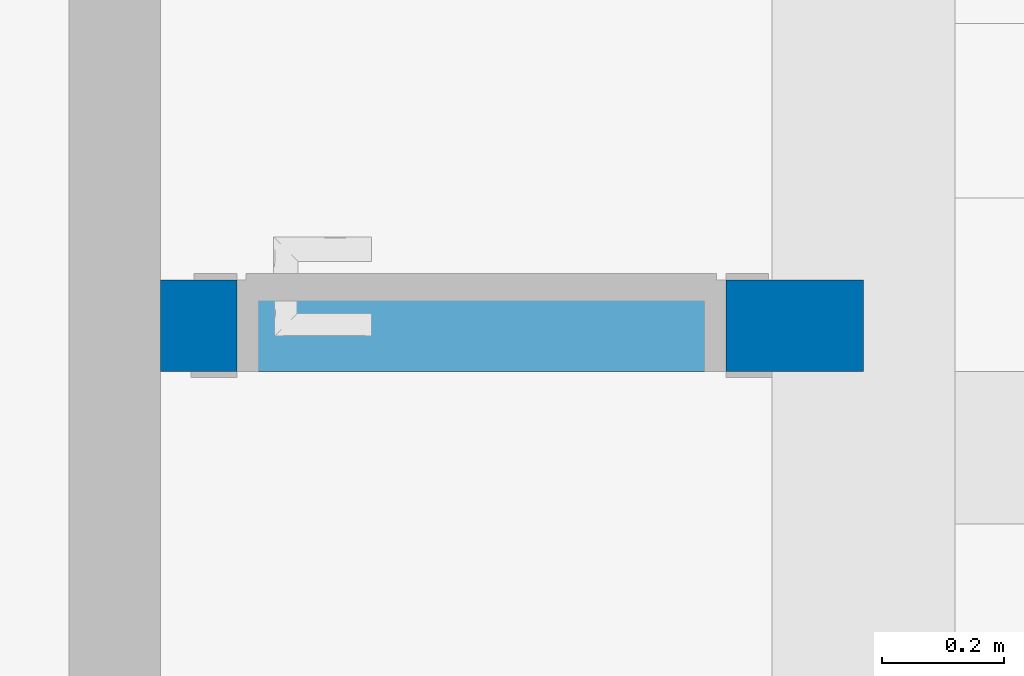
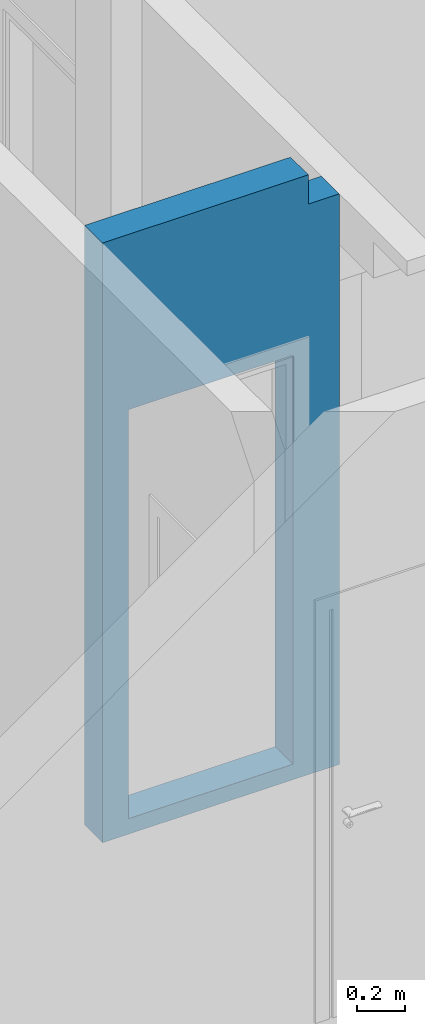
# One storey, part 4 of 11: 1 wall, 1 opening.
"""IFC2X3 building model written with IfcOpenShell, lengths in metres."""

from ifc_helpers import new_model, entity, si_unit, converted_unit, derived_unit, direction, frame, frame_2d, origin, place, context, subcontext, project, spatial, polyline, rectangle, extrude, clip, bounded_halfspace, material, layer, layer_set, layer_usage, type_object, element, save


model = new_model("IFC2X3")

# Units and contexts
model_context = context("Model", 3, precision=1e-05, world=origin(), true_north=direction((6.12303176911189e-17, 1.0)))
context_of_model = context(None, 3, precision=1e-05, world=origin(), true_north=direction((6.12303176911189e-17, 1.0)))
body_context = subcontext(model_context, "Body", "Model", "MODEL_VIEW")
ifc_project = project(units=[si_unit("LENGTHUNIT", "METRE"), si_unit("AREAUNIT", "SQUARE_METRE"), si_unit("VOLUMEUNIT", "CUBIC_METRE"), converted_unit("PLANEANGLEUNIT", "DEGREE", entity("IfcRatioMeasure", 0.0174532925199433), si_unit("PLANEANGLEUNIT", "RADIAN"), dimensions=[0, 0, 0, 0, 0, 0, 0]), si_unit("MASSUNIT", "GRAM", prefix="KILO"), si_unit("TIMEUNIT", "SECOND"), si_unit("FREQUENCYUNIT", "HERTZ"), si_unit("THERMODYNAMICTEMPERATUREUNIT", "DEGREE_CELSIUS"), derived_unit("THERMALTRANSMITTANCEUNIT", [(si_unit("MASSUNIT", "GRAM", prefix="KILO"), 1), (si_unit("THERMODYNAMICTEMPERATUREUNIT", "KELVIN"), -1), (si_unit("TIMEUNIT", "SECOND"), -3)]), derived_unit("VOLUMETRICFLOWRATEUNIT", [(si_unit("LENGTHUNIT", "METRE"), 3), (si_unit("TIMEUNIT", "SECOND"), -1)]), si_unit("ELECTRICCURRENTUNIT", "AMPERE"), si_unit("ELECTRICVOLTAGEUNIT", "VOLT"), si_unit("POWERUNIT", "WATT"), si_unit("FORCEUNIT", "NEWTON", prefix="KILO"), si_unit("ILLUMINANCEUNIT", "LUX"), si_unit("LUMINOUSFLUXUNIT", "LUMEN"), si_unit("LUMINOUSINTENSITYUNIT", "CANDELA"), si_unit("PRESSUREUNIT", "PASCAL")], contexts=[model_context, context_of_model])

# Site, building, storey
site_placement = place(None, origin())
site = spatial("IfcSite", under=ifc_project, at=site_placement, Name="Default", CompositionType="ELEMENT")
building_placement = place(site_placement, origin())
building = spatial("IfcBuilding", under=site, at=building_placement, CompositionType="ELEMENT")
storey_placement = place(building_placement, frame((0.0, 0.0, 3.45)))
storey = spatial("IfcBuildingStorey", under=building, at=storey_placement, Name="02.ES.PLANTA PRIMERA", CompositionType="ELEMENT", Elevation=3.45)

# Wall, opening
ifc_material = material(Name="Muro por defecto")
ifc_layer = layer(ifc_material, 0.15)
ifc_layer_set = layer_set([ifc_layer], Name="Muro básico:Por defecto - 15 cm")
ifc_layer_usage = layer_usage(ifc_layer_set, "AXIS2", "NEGATIVE", 0.075)
wall_type = type_object("IfcWallType", Name="Muro básico:Por defecto - 15 cm", PredefinedType="STANDARD", material=ifc_layer_set)
wall_placement = place(storey_placement, frame((7.91500000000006, 6.86500000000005, 0.0)))
wall = element("IfcWallStandardCase", 1, at=wall_placement, inside=storey, type_object=wall_type, material=ifc_layer_usage, Name="Muro básico:Por defecto - 15 cm", ObjectType="Muro básico:Por defecto - 15 cm", context=body_context, shape_type="Clipping", body=[
    clip(clip(extrude(rectangle(XDim=1.14999999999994, YDim=0.150000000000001, at=frame_2d((0.574999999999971, -2.42861286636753e-16), x_axis=(-1.0, 0.0))), origin(), (0.0, 0.0, 1.0), 3.08), bounded_halfspace(frame((1.0, 0.0750000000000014, 2.93), z_axis=(0.0, 0.0, -1.0), x_axis=(0.0, -1.0, 0.0)), True, frame((1.0, 0.0750000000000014, 2.93), z_axis=(0.0, 0.0, -1.0), x_axis=(0.0, -1.0, 0.0)), polyline([(0.0, 0.0), (0.0, -0.150000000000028), (0.150000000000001, -0.150000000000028), (0.149999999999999, 0.0), (0.0, 0.0)]))), bounded_halfspace(frame((1.0, -0.0749999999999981, 2.93), z_axis=(-1.0, 0.0, 0.0), x_axis=(0.0, -1.0, 0.0)), True, frame((1.0, -0.0749999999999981, 2.93), z_axis=(-1.0, 0.0, 0.0), x_axis=(0.0, -1.0, 0.0)), polyline([(0.0, 0.0), (0.0, 0.150000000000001), (-0.149999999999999, 0.150000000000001), (-0.149999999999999, 0.0), (0.0, 0.0)]))),
])
opening_placement = place(wall_placement, frame((0.125000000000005, -0.0750000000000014, 0.0799999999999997)))
element("IfcOpeningElement", 2, at=opening_placement, cuts=wall, Name="Puerta de 1 hoja:80 x 210 cm:1", ObjectType="Opening", context=body_context, shape_type="SweptSolid", body=[
    extrude(rectangle(XDim=2.09999999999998, YDim=0.8, at=frame_2d((1.04999999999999, 0.4), x_axis=(1.0, 0.0))), frame((0.0, 0.0, 0.0), z_axis=(0.0, 1.0, 0.0), x_axis=(0.0, 0.0, 1.0)), (0.0, 0.0, 1.0), 0.15),
])

save(model, "model.ifc")
